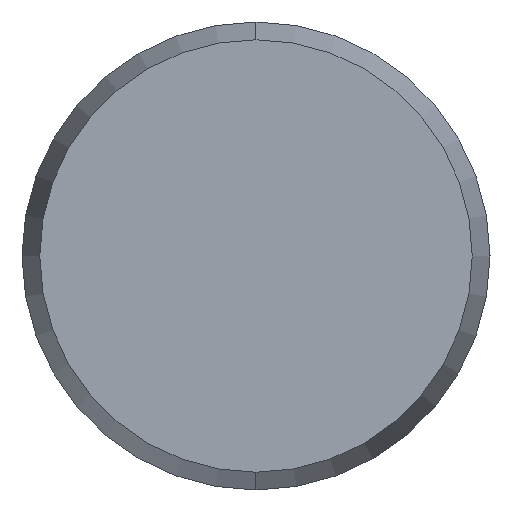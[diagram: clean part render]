
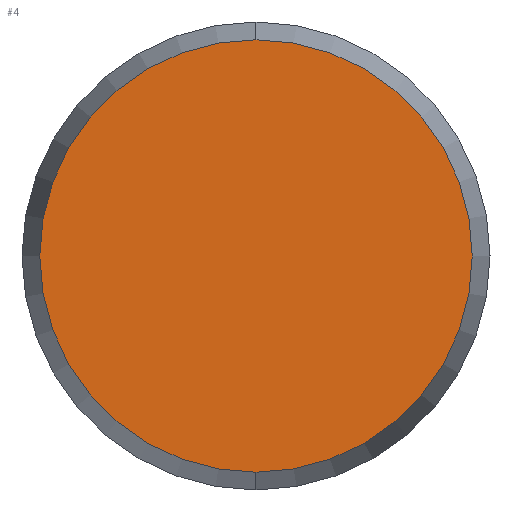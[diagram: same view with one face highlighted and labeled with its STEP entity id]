
A CAD part, left-side view. The second image highlights one B-rep face of the part: STEP entity #4.
In plain terms, the highlighted planar face has unit normal (-1, 0, 0).
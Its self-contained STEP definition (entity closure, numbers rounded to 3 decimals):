
#4 = ADVANCED_FACE ( 'NONE', ( #93 ), #89, .F. ) ;
#5 = EDGE_CURVE ( 'NONE', #6, #11, #73, .T. ) ;
#6 = VERTEX_POINT ( 'NONE', #87 ) ;
#8 = ORIENTED_EDGE ( 'NONE', *, *, #12, .F. ) ;
#9 = ORIENTED_EDGE ( 'NONE', *, *, #5, .F. ) ;
#11 = VERTEX_POINT ( 'NONE', #86 ) ;
#12 = EDGE_CURVE ( 'NONE', #11, #6, #84, .T. ) ;
#25 = EDGE_LOOP ( 'NONE', ( #8, #9 ) ) ;
#70 = DIRECTION ( 'NONE',  ( 0., 0., -1. ) ) ;
#71 = DIRECTION ( 'NONE',  ( 1., 0., 0. ) ) ;
#72 = AXIS2_PLACEMENT_3D ( 'NONE', #74, #71, #70 ) ;
#73 = CIRCLE ( 'NONE', #72, 5.544 ) ;
#74 = CARTESIAN_POINT ( 'NONE',  ( -40., 0., 0. ) ) ;
#75 = DIRECTION ( 'NONE',  ( 0., 0., -1. ) ) ;
#76 = DIRECTION ( 'NONE',  ( 1., 0., 0. ) ) ;
#77 = CARTESIAN_POINT ( 'NONE',  ( -40., 0., 0. ) ) ;
#80 = DIRECTION ( 'NONE',  ( 0., 0., -1. ) ) ;
#81 = DIRECTION ( 'NONE',  ( 1., 0., 0. ) ) ;
#82 = CARTESIAN_POINT ( 'NONE',  ( -40., 0., 0. ) ) ;
#83 = AXIS2_PLACEMENT_3D ( 'NONE', #82, #81, #80 ) ;
#84 = CIRCLE ( 'NONE', #83, 5.544 ) ;
#86 = CARTESIAN_POINT ( 'NONE',  ( -40., 0., 5.544 ) ) ;
#87 = CARTESIAN_POINT ( 'NONE',  ( -40., 0., -5.544 ) ) ;
#88 = AXIS2_PLACEMENT_3D ( 'NONE', #77, #76, #75 ) ;
#89 = PLANE ( 'NONE',  #88 ) ;
#93 = FACE_OUTER_BOUND ( 'NONE', #25, .T. ) ;
